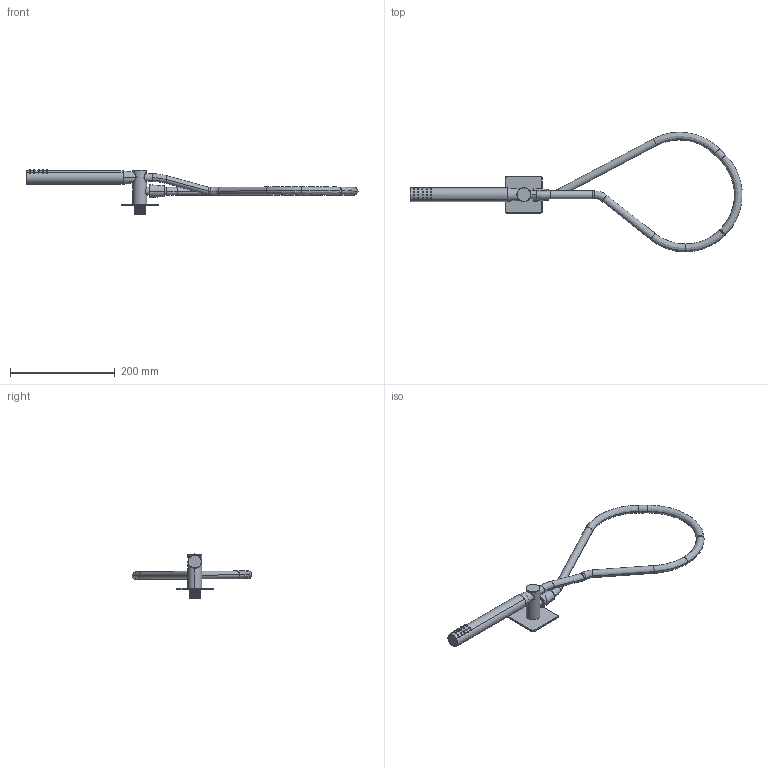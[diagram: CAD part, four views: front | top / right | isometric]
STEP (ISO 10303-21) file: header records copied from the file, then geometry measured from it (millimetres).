
FILE_DESCRIPTION (( 'STEP AP203' ), '1' );
FILE_NAME ('K11.STEP', '2024-04-15T13:12:49', ( '' ), ( '' ), 'SwSTEP 2.0', 'SolidWorks 2023', '' );
FILE_SCHEMA (( 'CONFIG_CONTROL_DESIGN' ));
Length unit declared in the file: millimetre
Products named in the file (6): DOC8; C47.00.0134.01; K11; C16.13.0001; PRE11; C24.2671.00
Assembly tree (5 placements, depth 3):
  K11
    PRE11
      C47.00.0134.01
      C24.2671.00
    DOC8
    C16.13.0001
Bounding box: 633.15 x 228.11 x 84.86 mm (x, y, z)
Volume: 321547.4 mm3; surface area: 91332.2 mm2
Topology: 9 solids, 9 shells, 292 faces, 621 edges, 374 vertices
Faces by surface type: cylinder 124, cone 59, plane 59, bspline 30, torus 16, sphere 4
Entity records: 12915 total; most frequent: CARTESIAN_POINT 6278, DIRECTION 1291, ORIENTED_EDGE 1226, EDGE_CURVE 613, AXIS2_PLACEMENT_3D 540, VERTEX_POINT 370, EDGE_LOOP 325, ADVANCED_FACE 292
